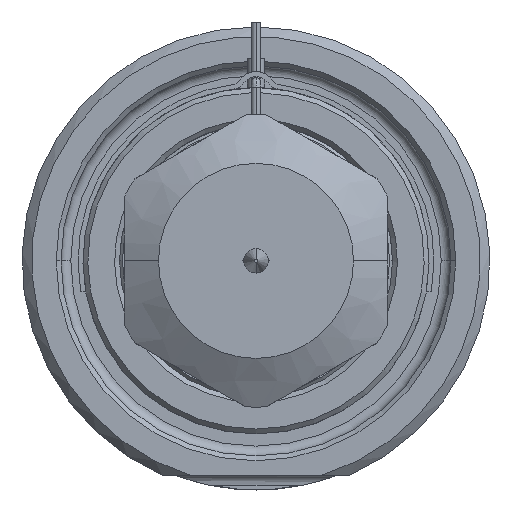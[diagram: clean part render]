
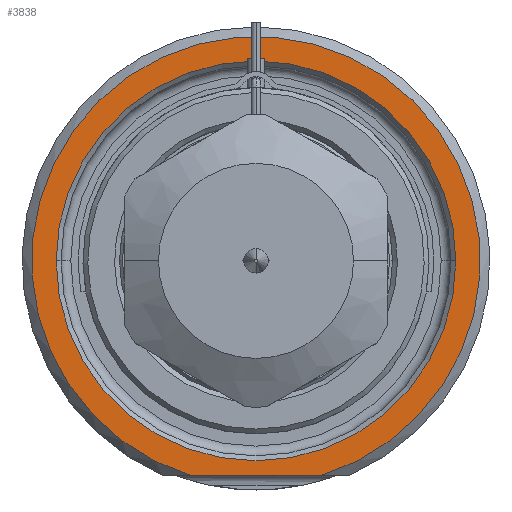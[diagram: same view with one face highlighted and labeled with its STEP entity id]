
A CAD part, front view. The second image highlights one B-rep face of the part: STEP entity #3838.
In plain terms, the highlighted planar face has unit normal (0, -1, 0).
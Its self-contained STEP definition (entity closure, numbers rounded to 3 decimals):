
#1=DIRECTION('',(1.,0.,0.));
#2=VECTOR('',#1,13.416);
#3=CARTESIAN_POINT('',(-6.708,0.,-22.));
#4=LINE('',#3,#2);
#5=CARTESIAN_POINT('',(0.,0.,0.));
#6=DIRECTION('',(0.,1.,0.));
#7=DIRECTION('',(-1.,0.,0.));
#8=AXIS2_PLACEMENT_3D('',#5,#6,#7);
#10=CARTESIAN_POINT('',(0.,0.,0.));
#11=DIRECTION('',(0.,1.,0.));
#12=DIRECTION('',(1.,0.,0.));
#13=AXIS2_PLACEMENT_3D('',#10,#11,#12);
#121=CARTESIAN_POINT('',(0.,0.,0.));
#122=DIRECTION('',(0.,-1.,0.));
#123=DIRECTION('',(0.292,0.,-0.957));
#124=AXIS2_PLACEMENT_3D('',#121,#122,#123);
#3209=CARTESIAN_POINT('',(-20.5,0.,0.));
#3210=CARTESIAN_POINT('',(20.5,0.,0.));
#3211=VERTEX_POINT('',#3209);
#3212=VERTEX_POINT('',#3210);
#3249=CARTESIAN_POINT('',(-6.708,0.,-22.));
#3250=CARTESIAN_POINT('',(6.708,0.,-22.));
#3251=VERTEX_POINT('',#3249);
#3252=VERTEX_POINT('',#3250);
#3821=CARTESIAN_POINT('',(0.,0.,0.));
#3822=DIRECTION('',(0.,-1.,0.));
#3823=DIRECTION('',(1.,0.,0.));
#3824=AXIS2_PLACEMENT_3D('',#3821,#3822,#3823);
#3825=PLANE('',#3824);
#3827=ORIENTED_EDGE('',*,*,#3826,.F.);
#3829=ORIENTED_EDGE('',*,*,#3828,.F.);
#3830=EDGE_LOOP('',(#3827,#3829));
#3831=FACE_OUTER_BOUND('',#3830,.F.);
#3833=ORIENTED_EDGE('',*,*,#3832,.F.);
#3835=ORIENTED_EDGE('',*,*,#3834,.F.);
#3836=EDGE_LOOP('',(#3833,#3835));
#3837=FACE_BOUND('',#3836,.F.);
#3838=ADVANCED_FACE('',(#3831,#3837),#3825,.T.);
#9=CIRCLE('',#8,20.5);
#14=CIRCLE('',#13,20.5);
#125=CIRCLE('',#124,23.);
#3826=EDGE_CURVE('',#3251,#3252,#4,.T.);
#3828=EDGE_CURVE('',#3252,#3251,#125,.T.);
#3832=EDGE_CURVE('',#3211,#3212,#9,.T.);
#3834=EDGE_CURVE('',#3212,#3211,#14,.T.);
